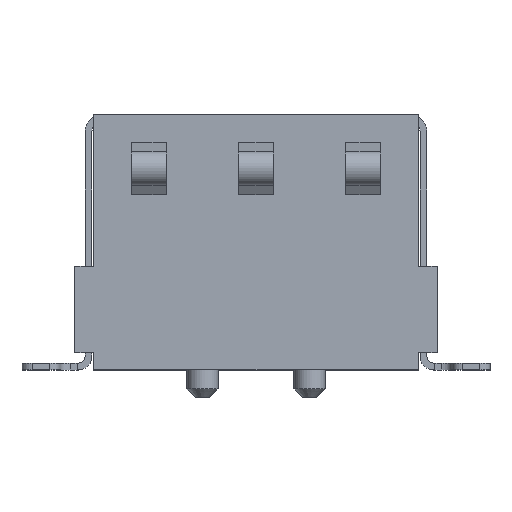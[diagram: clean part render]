
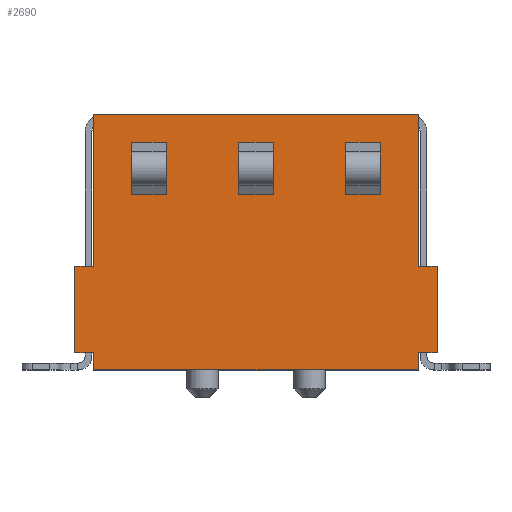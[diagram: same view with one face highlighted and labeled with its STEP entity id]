
A CAD part, top view. The second image highlights one B-rep face of the part: STEP entity #2690.
In plain terms, the highlighted planar face has unit normal (0, 0, 1).
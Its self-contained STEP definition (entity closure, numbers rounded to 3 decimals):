
#42=DIRECTION('',(0.,-1.,0.));
#43=VECTOR('',#42,4.4);
#44=CARTESIAN_POINT('',(4.7,7.4,5.3));
#45=LINE('',#44,#43);
#90=DIRECTION('',(0.,-1.,0.));
#91=VECTOR('',#90,0.5);
#92=CARTESIAN_POINT('',(4.7,0.5,5.3));
#93=LINE('',#92,#91);
#110=DIRECTION('',(1.,0.,0.));
#111=VECTOR('',#110,0.55);
#112=CARTESIAN_POINT('',(4.7,0.5,5.3));
#113=LINE('',#112,#111);
#130=DIRECTION('',(0.,-1.,0.));
#131=VECTOR('',#130,0.5);
#132=CARTESIAN_POINT('',(-4.7,0.5,5.3));
#133=LINE('',#132,#131);
#134=DIRECTION('',(1.,0.,0.));
#135=VECTOR('',#134,0.55);
#136=CARTESIAN_POINT('',(-5.25,0.5,5.3));
#137=LINE('',#136,#135);
#138=DIRECTION('',(0.,-1.,0.));
#139=VECTOR('',#138,2.5);
#140=CARTESIAN_POINT('',(-5.25,3.,5.3));
#141=LINE('',#140,#139);
#142=DIRECTION('',(-1.,0.,0.));
#143=VECTOR('',#142,0.55);
#144=CARTESIAN_POINT('',(-4.7,3.,5.3));
#145=LINE('',#144,#143);
#146=DIRECTION('',(0.,-1.,0.));
#147=VECTOR('',#146,4.4);
#148=CARTESIAN_POINT('',(-4.7,7.4,5.3));
#149=LINE('',#148,#147);
#150=DIRECTION('',(-1.,0.,0.));
#151=VECTOR('',#150,9.4);
#152=CARTESIAN_POINT('',(4.7,7.4,5.3));
#153=LINE('',#152,#151);
#154=DIRECTION('',(-1.,0.,0.));
#155=VECTOR('',#154,0.55);
#156=CARTESIAN_POINT('',(5.25,3.,5.3));
#157=LINE('',#156,#155);
#158=DIRECTION('',(0.,1.,0.));
#159=VECTOR('',#158,2.5);
#160=CARTESIAN_POINT('',(5.25,0.5,5.3));
#161=LINE('',#160,#159);
#162=DIRECTION('',(1.,0.,0.));
#163=VECTOR('',#162,9.4);
#164=CARTESIAN_POINT('',(-4.7,0.,5.3));
#165=LINE('',#164,#163);
#166=DIRECTION('',(0.,1.,0.));
#167=VECTOR('',#166,0.207);
#168=CARTESIAN_POINT('',(2.6,6.38,5.3));
#169=LINE('',#168,#167);
#170=DIRECTION('',(-1.,0.,0.));
#171=VECTOR('',#170,1.);
#172=CARTESIAN_POINT('',(3.6,6.38,5.3));
#173=LINE('',#172,#171);
#174=DIRECTION('',(0.,-1.,0.));
#175=VECTOR('',#174,0.207);
#176=CARTESIAN_POINT('',(3.6,6.587,5.3));
#177=LINE('',#176,#175);
#178=DIRECTION('',(1.,0.,0.));
#179=VECTOR('',#178,1.);
#180=CARTESIAN_POINT('',(2.6,6.587,5.3));
#181=LINE('',#180,#179);
#182=DIRECTION('',(0.,1.,0.));
#183=VECTOR('',#182,0.207);
#184=CARTESIAN_POINT('',(2.6,5.073,5.3));
#185=LINE('',#184,#183);
#186=DIRECTION('',(-1.,0.,0.));
#187=VECTOR('',#186,1.);
#188=CARTESIAN_POINT('',(3.6,5.073,5.3));
#189=LINE('',#188,#187);
#190=DIRECTION('',(0.,-1.,0.));
#191=VECTOR('',#190,0.207);
#192=CARTESIAN_POINT('',(3.6,5.28,5.3));
#193=LINE('',#192,#191);
#194=DIRECTION('',(1.,0.,0.));
#195=VECTOR('',#194,1.);
#196=CARTESIAN_POINT('',(2.6,5.28,5.3));
#197=LINE('',#196,#195);
#198=DIRECTION('',(0.,1.,0.));
#199=VECTOR('',#198,0.207);
#200=CARTESIAN_POINT('',(-0.5,6.38,5.3));
#201=LINE('',#200,#199);
#202=DIRECTION('',(-1.,0.,0.));
#203=VECTOR('',#202,1.);
#204=CARTESIAN_POINT('',(0.5,6.38,5.3));
#205=LINE('',#204,#203);
#206=DIRECTION('',(0.,-1.,0.));
#207=VECTOR('',#206,0.207);
#208=CARTESIAN_POINT('',(0.5,6.587,5.3));
#209=LINE('',#208,#207);
#210=DIRECTION('',(1.,0.,0.));
#211=VECTOR('',#210,1.);
#212=CARTESIAN_POINT('',(-0.5,6.587,5.3));
#213=LINE('',#212,#211);
#214=DIRECTION('',(0.,1.,0.));
#215=VECTOR('',#214,0.207);
#216=CARTESIAN_POINT('',(-0.5,5.073,5.3));
#217=LINE('',#216,#215);
#218=DIRECTION('',(-1.,0.,0.));
#219=VECTOR('',#218,1.);
#220=CARTESIAN_POINT('',(0.5,5.073,5.3));
#221=LINE('',#220,#219);
#222=DIRECTION('',(0.,-1.,0.));
#223=VECTOR('',#222,0.207);
#224=CARTESIAN_POINT('',(0.5,5.28,5.3));
#225=LINE('',#224,#223);
#226=DIRECTION('',(1.,0.,0.));
#227=VECTOR('',#226,1.);
#228=CARTESIAN_POINT('',(-0.5,5.28,5.3));
#229=LINE('',#228,#227);
#230=DIRECTION('',(0.,1.,0.));
#231=VECTOR('',#230,0.207);
#232=CARTESIAN_POINT('',(-3.6,6.38,5.3));
#233=LINE('',#232,#231);
#234=DIRECTION('',(-1.,0.,0.));
#235=VECTOR('',#234,1.);
#236=CARTESIAN_POINT('',(-2.6,6.38,5.3));
#237=LINE('',#236,#235);
#238=DIRECTION('',(0.,-1.,0.));
#239=VECTOR('',#238,0.207);
#240=CARTESIAN_POINT('',(-2.6,6.587,5.3));
#241=LINE('',#240,#239);
#242=DIRECTION('',(1.,0.,0.));
#243=VECTOR('',#242,1.);
#244=CARTESIAN_POINT('',(-3.6,6.587,5.3));
#245=LINE('',#244,#243);
#246=DIRECTION('',(0.,1.,0.));
#247=VECTOR('',#246,0.207);
#248=CARTESIAN_POINT('',(-3.6,5.073,5.3));
#249=LINE('',#248,#247);
#250=DIRECTION('',(-1.,0.,0.));
#251=VECTOR('',#250,1.);
#252=CARTESIAN_POINT('',(-2.6,5.073,5.3));
#253=LINE('',#252,#251);
#254=DIRECTION('',(0.,-1.,0.));
#255=VECTOR('',#254,0.207);
#256=CARTESIAN_POINT('',(-2.6,5.28,5.3));
#257=LINE('',#256,#255);
#258=DIRECTION('',(1.,0.,0.));
#259=VECTOR('',#258,1.);
#260=CARTESIAN_POINT('',(-3.6,5.28,5.3));
#261=LINE('',#260,#259);
#1930=CARTESIAN_POINT('',(4.7,3.,5.3));
#1931=VERTEX_POINT('',#1930);
#1932=CARTESIAN_POINT('',(4.7,7.4,5.3));
#1933=VERTEX_POINT('',#1932);
#1952=CARTESIAN_POINT('',(4.7,0.,5.3));
#1954=VERTEX_POINT('',#1952);
#1956=CARTESIAN_POINT('',(4.7,0.5,5.3));
#1957=VERTEX_POINT('',#1956);
#1966=CARTESIAN_POINT('',(-4.7,0.5,5.3));
#1967=CARTESIAN_POINT('',(-4.7,0.,5.3));
#1968=VERTEX_POINT('',#1966);
#1969=VERTEX_POINT('',#1967);
#1970=CARTESIAN_POINT('',(-5.25,0.5,5.3));
#1971=VERTEX_POINT('',#1970);
#1972=CARTESIAN_POINT('',(-4.7,7.4,5.3));
#1973=CARTESIAN_POINT('',(-4.7,3.,5.3));
#1974=VERTEX_POINT('',#1972);
#1975=VERTEX_POINT('',#1973);
#1976=CARTESIAN_POINT('',(5.25,3.,5.3));
#1977=VERTEX_POINT('',#1976);
#1978=CARTESIAN_POINT('',(5.25,0.5,5.3));
#1979=VERTEX_POINT('',#1978);
#1980=CARTESIAN_POINT('',(3.6,6.38,5.3));
#1981=CARTESIAN_POINT('',(2.6,6.38,5.3));
#1982=VERTEX_POINT('',#1980);
#1983=VERTEX_POINT('',#1981);
#1984=CARTESIAN_POINT('',(3.6,6.587,5.3));
#1985=VERTEX_POINT('',#1984);
#1986=CARTESIAN_POINT('',(2.6,6.587,5.3));
#1987=VERTEX_POINT('',#1986);
#1988=CARTESIAN_POINT('',(3.6,5.073,5.3));
#1989=CARTESIAN_POINT('',(2.6,5.073,5.3));
#1990=VERTEX_POINT('',#1988);
#1991=VERTEX_POINT('',#1989);
#1992=CARTESIAN_POINT('',(3.6,5.28,5.3));
#1993=VERTEX_POINT('',#1992);
#1994=CARTESIAN_POINT('',(2.6,5.28,5.3));
#1995=VERTEX_POINT('',#1994);
#1996=CARTESIAN_POINT('',(0.5,6.38,5.3));
#1997=CARTESIAN_POINT('',(-0.5,6.38,5.3));
#1998=VERTEX_POINT('',#1996);
#1999=VERTEX_POINT('',#1997);
#2000=CARTESIAN_POINT('',(0.5,6.587,5.3));
#2001=VERTEX_POINT('',#2000);
#2002=CARTESIAN_POINT('',(-0.5,6.587,5.3));
#2003=VERTEX_POINT('',#2002);
#2004=CARTESIAN_POINT('',(0.5,5.073,5.3));
#2005=CARTESIAN_POINT('',(-0.5,5.073,5.3));
#2006=VERTEX_POINT('',#2004);
#2007=VERTEX_POINT('',#2005);
#2008=CARTESIAN_POINT('',(0.5,5.28,5.3));
#2009=VERTEX_POINT('',#2008);
#2010=CARTESIAN_POINT('',(-0.5,5.28,5.3));
#2011=VERTEX_POINT('',#2010);
#2012=CARTESIAN_POINT('',(-2.6,6.38,5.3));
#2013=CARTESIAN_POINT('',(-3.6,6.38,5.3));
#2014=VERTEX_POINT('',#2012);
#2015=VERTEX_POINT('',#2013);
#2016=CARTESIAN_POINT('',(-2.6,6.587,5.3));
#2017=VERTEX_POINT('',#2016);
#2018=CARTESIAN_POINT('',(-3.6,6.587,5.3));
#2019=VERTEX_POINT('',#2018);
#2020=CARTESIAN_POINT('',(-2.6,5.073,5.3));
#2021=CARTESIAN_POINT('',(-3.6,5.073,5.3));
#2022=VERTEX_POINT('',#2020);
#2023=VERTEX_POINT('',#2021);
#2024=CARTESIAN_POINT('',(-2.6,5.28,5.3));
#2025=VERTEX_POINT('',#2024);
#2026=CARTESIAN_POINT('',(-3.6,5.28,5.3));
#2027=VERTEX_POINT('',#2026);
#2076=CARTESIAN_POINT('',(-5.25,3.,5.3));
#2077=VERTEX_POINT('',#2076);
#2602=CARTESIAN_POINT('',(0.,3.7,5.3));
#2603=DIRECTION('',(0.,0.,1.));
#2604=DIRECTION('',(1.,0.,0.));
#2605=AXIS2_PLACEMENT_3D('',#2602,#2603,#2604);
#2606=PLANE('',#2605);
#2608=ORIENTED_EDGE('',*,*,#2607,.F.);
#2610=ORIENTED_EDGE('',*,*,#2609,.F.);
#2612=ORIENTED_EDGE('',*,*,#2611,.F.);
#2614=ORIENTED_EDGE('',*,*,#2613,.F.);
#2616=ORIENTED_EDGE('',*,*,#2615,.F.);
#2618=ORIENTED_EDGE('',*,*,#2617,.F.);
#2619=ORIENTED_EDGE('',*,*,#2542,.T.);
#2621=ORIENTED_EDGE('',*,*,#2620,.F.);
#2623=ORIENTED_EDGE('',*,*,#2622,.F.);
#2624=ORIENTED_EDGE('',*,*,#2589,.F.);
#2625=ORIENTED_EDGE('',*,*,#2568,.T.);
#2627=ORIENTED_EDGE('',*,*,#2626,.F.);
#2628=EDGE_LOOP('',(#2608,#2610,#2612,#2614,#2616,#2618,#2619,#2621,#2623,#2624,
#2625,#2627));
#2629=FACE_OUTER_BOUND('',#2628,.F.);
#2631=ORIENTED_EDGE('',*,*,#2630,.F.);
#2633=ORIENTED_EDGE('',*,*,#2632,.F.);
#2635=ORIENTED_EDGE('',*,*,#2634,.F.);
#2637=ORIENTED_EDGE('',*,*,#2636,.F.);
#2638=EDGE_LOOP('',(#2631,#2633,#2635,#2637));
#2639=FACE_BOUND('',#2638,.F.);
#2641=ORIENTED_EDGE('',*,*,#2640,.F.);
#2643=ORIENTED_EDGE('',*,*,#2642,.F.);
#2645=ORIENTED_EDGE('',*,*,#2644,.F.);
#2647=ORIENTED_EDGE('',*,*,#2646,.F.);
#2648=EDGE_LOOP('',(#2641,#2643,#2645,#2647));
#2649=FACE_BOUND('',#2648,.F.);
#2651=ORIENTED_EDGE('',*,*,#2650,.F.);
#2653=ORIENTED_EDGE('',*,*,#2652,.F.);
#2655=ORIENTED_EDGE('',*,*,#2654,.F.);
#2657=ORIENTED_EDGE('',*,*,#2656,.F.);
#2658=EDGE_LOOP('',(#2651,#2653,#2655,#2657));
#2659=FACE_BOUND('',#2658,.F.);
#2661=ORIENTED_EDGE('',*,*,#2660,.F.);
#2663=ORIENTED_EDGE('',*,*,#2662,.F.);
#2665=ORIENTED_EDGE('',*,*,#2664,.F.);
#2667=ORIENTED_EDGE('',*,*,#2666,.F.);
#2668=EDGE_LOOP('',(#2661,#2663,#2665,#2667));
#2669=FACE_BOUND('',#2668,.F.);
#2671=ORIENTED_EDGE('',*,*,#2670,.F.);
#2673=ORIENTED_EDGE('',*,*,#2672,.F.);
#2675=ORIENTED_EDGE('',*,*,#2674,.F.);
#2677=ORIENTED_EDGE('',*,*,#2676,.F.);
#2678=EDGE_LOOP('',(#2671,#2673,#2675,#2677));
#2679=FACE_BOUND('',#2678,.F.);
#2681=ORIENTED_EDGE('',*,*,#2680,.F.);
#2683=ORIENTED_EDGE('',*,*,#2682,.F.);
#2685=ORIENTED_EDGE('',*,*,#2684,.F.);
#2687=ORIENTED_EDGE('',*,*,#2686,.F.);
#2688=EDGE_LOOP('',(#2681,#2683,#2685,#2687));
#2689=FACE_BOUND('',#2688,.F.);
#2690=ADVANCED_FACE('',(#2629,#2639,#2649,#2659,#2669,#2679,#2689),#2606,.T.);
#2542=EDGE_CURVE('',#1933,#1931,#45,.T.);
#2568=EDGE_CURVE('',#1957,#1954,#93,.T.);
#2589=EDGE_CURVE('',#1957,#1979,#113,.T.);
#2607=EDGE_CURVE('',#1968,#1969,#133,.T.);
#2609=EDGE_CURVE('',#1971,#1968,#137,.T.);
#2611=EDGE_CURVE('',#2077,#1971,#141,.T.);
#2613=EDGE_CURVE('',#1975,#2077,#145,.T.);
#2615=EDGE_CURVE('',#1974,#1975,#149,.T.);
#2617=EDGE_CURVE('',#1933,#1974,#153,.T.);
#2620=EDGE_CURVE('',#1977,#1931,#157,.T.);
#2622=EDGE_CURVE('',#1979,#1977,#161,.T.);
#2626=EDGE_CURVE('',#1969,#1954,#165,.T.);
#2630=EDGE_CURVE('',#1983,#1987,#169,.T.);
#2632=EDGE_CURVE('',#1982,#1983,#173,.T.);
#2634=EDGE_CURVE('',#1985,#1982,#177,.T.);
#2636=EDGE_CURVE('',#1987,#1985,#181,.T.);
#2640=EDGE_CURVE('',#1991,#1995,#185,.T.);
#2642=EDGE_CURVE('',#1990,#1991,#189,.T.);
#2644=EDGE_CURVE('',#1993,#1990,#193,.T.);
#2646=EDGE_CURVE('',#1995,#1993,#197,.T.);
#2650=EDGE_CURVE('',#1999,#2003,#201,.T.);
#2652=EDGE_CURVE('',#1998,#1999,#205,.T.);
#2654=EDGE_CURVE('',#2001,#1998,#209,.T.);
#2656=EDGE_CURVE('',#2003,#2001,#213,.T.);
#2660=EDGE_CURVE('',#2007,#2011,#217,.T.);
#2662=EDGE_CURVE('',#2006,#2007,#221,.T.);
#2664=EDGE_CURVE('',#2009,#2006,#225,.T.);
#2666=EDGE_CURVE('',#2011,#2009,#229,.T.);
#2670=EDGE_CURVE('',#2015,#2019,#233,.T.);
#2672=EDGE_CURVE('',#2014,#2015,#237,.T.);
#2674=EDGE_CURVE('',#2017,#2014,#241,.T.);
#2676=EDGE_CURVE('',#2019,#2017,#245,.T.);
#2680=EDGE_CURVE('',#2023,#2027,#249,.T.);
#2682=EDGE_CURVE('',#2022,#2023,#253,.T.);
#2684=EDGE_CURVE('',#2025,#2022,#257,.T.);
#2686=EDGE_CURVE('',#2027,#2025,#261,.T.);
